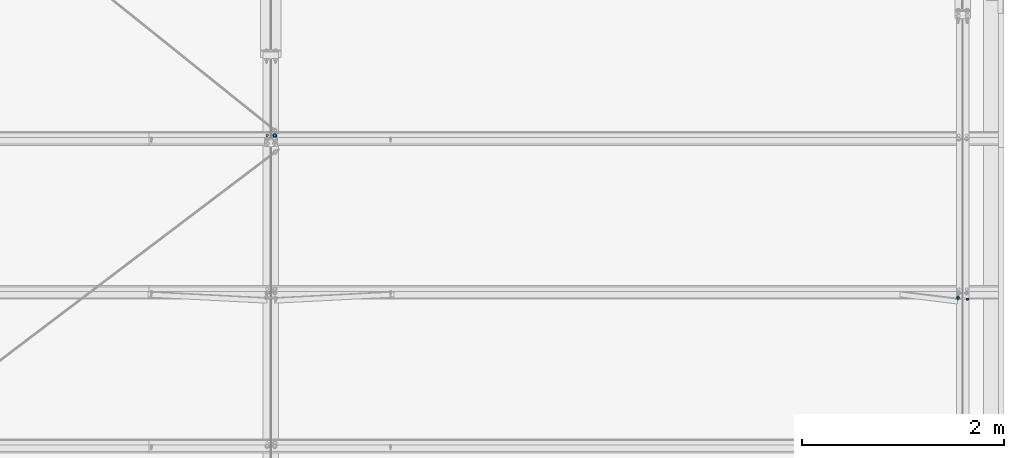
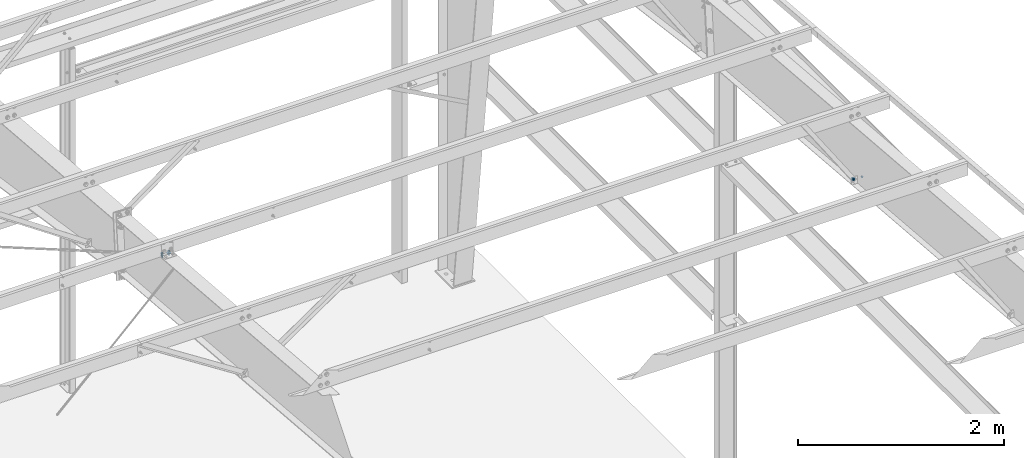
# One storey, part 176 of 185: 5 mechanical fasteners, 3 elements without a shape of their own.
"""IFC2X3 building model written with IfcOpenShell, lengths in millimetres."""

from ifc_helpers import new_model, si_unit, frame, origin_with_axes, origin_2d_with_axis, place, context, subcontext, project, spatial, polyline, circle, outline, extrude, source, transform, mapped, material, type_object, element, aggregate, save


model = new_model("IFC2X3")

# Units and contexts
model_context = context("Model", 3, precision=1e-05, world=origin_with_axes())
body_context = subcontext(model_context, "Body", "Model", "MODEL_VIEW")
ifc_project = project(units=[si_unit("LENGTHUNIT", "METRE", prefix="MILLI"), si_unit("AREAUNIT", "SQUARE_METRE"), si_unit("VOLUMEUNIT", "CUBIC_METRE"), si_unit("MASSUNIT", "GRAM", prefix="KILO"), si_unit("TIMEUNIT", "SECOND"), si_unit("PLANEANGLEUNIT", "RADIAN"), si_unit("SOLIDANGLEUNIT", "STERADIAN"), si_unit("THERMODYNAMICTEMPERATUREUNIT", "DEGREE_CELSIUS"), si_unit("LUMINOUSINTENSITYUNIT", "LUMEN")], contexts=[model_context])

# Site, building, storey
site_placement = place(None, origin_with_axes())
site = spatial("IfcSite", under=ifc_project, at=site_placement, Name="Undefined", CompositionType="ELEMENT")
building_placement = place(site_placement, origin_with_axes())
building = spatial("IfcBuilding", under=site, at=building_placement, Name="Undefined", CompositionType="ELEMENT")
storey_placement = place(building_placement, origin_with_axes())
storey = spatial("IfcBuildingStorey", under=building, at=storey_placement, Name="Undefined", CompositionType="ELEMENT", Elevation=0.0)

# Assembly, mechanical fastener
assembly_1_placement = place(storey_placement, origin_with_axes())
assembly_1 = element("IfcElementAssembly", 1, at=assembly_1_placement, inside=storey, Name="Steel Assembly", AssemblyPlace="NOTDEFINED", PredefinedType="RIGID_FRAME")
ifc_material_1 = material(Name="Undefined")
discrete_accessory_type = type_object("IfcDiscreteAccessoryType", Name="Bolt assembly")
shared_shape_1 = source(origin_with_axes(), body_context, "Body", "SweptSolid", [
    extrude(circle(Radius=7.14374971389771, at=origin_2d_with_axis()), frame((0.0, -1.59000001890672, 0.0), z_axis=(0.0, 1.0, 0.0), x_axis=(1.0, 0.0, 0.0)), (0.0, 0.0, 1.0), 1.7),
    extrude(outline(polyline([(10.9985221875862, 0.0), (5.4992610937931, 9.52499961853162), (-5.4992610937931, 9.52499961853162), (-10.9985221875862, 0.0), (-5.4992610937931, -9.52499961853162), (5.4992610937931, -9.52499961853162), (10.9985221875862, 0.0)])), frame((0.0, -15.0837496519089, 0.0), z_axis=(0.0, 1.0, 0.0), x_axis=(1.0, 0.0, 0.0)), (0.0, 0.0, 1.0), 9.5),
    extrude(circle(Radius=6.34999990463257, at=origin_2d_with_axis()), frame((0.0, -5.5587500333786, 0.0), z_axis=(0.0, 1.0, 0.0), x_axis=(1.0, 0.0, 0.0)), (0.0, 0.0, 1.0), 38.1),
    extrude(circle(Radius=13.4937496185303, at=origin_2d_with_axis()), frame((0.0, -5.5587500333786, 0.0), z_axis=(0.0, 1.0, 0.0), x_axis=(1.0, 0.0, 0.0)), (0.0, 0.0, 1.0), 4.0),
    extrude(circle(Radius=22.2250003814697, at=origin_2d_with_axis()), frame((0.0, 0.0, 0.0), z_axis=(0.0, 1.0, 0.0), x_axis=(1.0, 0.0, 0.0)), (0.0, 0.0, 1.0), 7.9),
    extrude(outline(polyline([(12.8316099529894, 0.0), (6.4158049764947, 11.1125001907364), (-6.4158049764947, 11.1125001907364), (-12.8316099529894, 0.0), (-6.4158049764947, -11.1125001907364), (6.4158049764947, -11.1125001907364), (12.8316099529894, 0.0)])), frame((0.0, 7.93750000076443, 0.0), z_axis=(0.0, 1.0, 0.0), x_axis=(1.0, 0.0, 0.0)), (0.0, 0.0, 1.0), 12.3),
])
mechanical_fastener_1_placement = place(assembly_1_placement, frame((44504.8883669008, 23828.040158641, 5914.75831666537), z_axis=(-0.832860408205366, -0.0459642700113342, -0.551571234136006), x_axis=(-0.553483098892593, 0.0691652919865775, 0.82998350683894)))
mechanical_fastener_1 = element("IfcMechanicalFastener", 2, at=mechanical_fastener_1_placement, type_object=discrete_accessory_type, material=ifc_material_1, Name="Bolt assembly", NominalDiameter=12.6999998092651, NominalLength=38.0999984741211, context=body_context, shape_type="MappedRepresentation", body=[
    mapped(shared_shape_1, transform((0.0, 0.0, 0.0))),
])
aggregate(assembly_1, [mechanical_fastener_1])

# Assembly, mechanical fasteners
assembly_2_placement = place(storey_placement, origin_with_axes())
assembly_2 = element("IfcElementAssembly", 3, at=assembly_2_placement, inside=storey, Name="Steel Assembly", AssemblyPlace="NOTDEFINED", PredefinedType="RIGID_FRAME")
ifc_material_2 = material(Name="7990")
shared_shape_2 = source(origin_with_axes(), body_context, "Body", "SweptSolid", [
    extrude(circle(Radius=7.14374971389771, at=origin_2d_with_axis()), frame((0.0, -3.41600000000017, 0.0), z_axis=(0.0, 1.0, 0.0), x_axis=(1.0, 0.0, 0.0)), (0.0, 0.0, 1.0), 3.5),
    extrude(circle(Radius=11.4299998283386, at=origin_2d_with_axis()), frame((0.0, 0.0, 0.0), z_axis=(0.0, 1.0, 0.0), x_axis=(1.0, 0.0, 0.0)), (0.0, 0.0, 1.0), 4.2),
    extrude(outline(polyline([(12.171698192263, 0.0), (6.08584909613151, 10.5409998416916), (-6.08584909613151, 10.5409998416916), (-12.171698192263, 0.0), (-6.08584909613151, -10.5409998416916), (6.08584909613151, -10.5409998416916), (12.171698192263, 0.0)])), frame((0.0, 4.1909999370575, 0.0), z_axis=(0.0, 1.0, 0.0), x_axis=(1.0, 0.0, 0.0)), (0.0, 0.0, 1.0), 8.4),
])
mechanical_fastener_2_placement = place(assembly_2_placement, frame((44597.75815, 23827.9709933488, 5913.92833315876), z_axis=(-0.921635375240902, -0.0322263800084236, -0.386716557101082), x_axis=(0.388056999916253, -0.0765376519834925, -0.918451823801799)))
mechanical_fastener_2 = element("IfcMechanicalFastener", 4, at=mechanical_fastener_2_placement, type_object=discrete_accessory_type, material=ifc_material_2, Name="Bolt assembly", NominalDiameter=12.6999998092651, NominalLength=38.0999984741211, context=body_context, shape_type="MappedRepresentation", body=[
    mapped(shared_shape_2, transform((0.0, 0.0, 0.0))),
])
shared_shape_3 = source(origin_with_axes(), body_context, "Body", "SweptSolid", [
    extrude(circle(Radius=7.14374971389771, at=origin_2d_with_axis()), frame((0.0, 0.0, 0.0), z_axis=(0.0, 1.0, 0.0), x_axis=(1.0, 0.0, 0.0)), (0.0, 0.0, 1.0), 3.5),
    extrude(circle(Radius=11.4299998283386, at=origin_2d_with_axis()), frame((0.0, 3.41600000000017, 0.0), z_axis=(0.0, 1.0, 0.0), x_axis=(1.0, 0.0, 0.0)), (0.0, 0.0, 1.0), 4.2),
    extrude(outline(polyline([(12.171698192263, 0.0), (6.08584909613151, 10.5409998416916), (-6.08584909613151, 10.5409998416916), (-12.171698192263, 0.0), (-6.08584909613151, -10.5409998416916), (6.08584909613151, -10.5409998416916), (12.171698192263, 0.0)])), frame((0.0, 7.60699993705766, 0.0), z_axis=(0.0, 1.0, 0.0), x_axis=(1.0, 0.0, 0.0)), (0.0, 0.0, 1.0), 8.4),
])
mechanical_fastener_3_placement = place(assembly_2_placement, frame((44505.44185, 23827.9709933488, 5913.92833315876), z_axis=(0.921635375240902, -0.0322263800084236, -0.386716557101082), x_axis=(-0.388056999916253, -0.0765376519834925, -0.918451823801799)))
mechanical_fastener_3 = element("IfcMechanicalFastener", 5, at=mechanical_fastener_3_placement, type_object=discrete_accessory_type, material=ifc_material_2, Name="Bolt assembly", NominalDiameter=12.6999998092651, NominalLength=38.0999984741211, context=body_context, shape_type="MappedRepresentation", body=[
    mapped(shared_shape_3, transform((0.0, 0.0, 0.0))),
])
aggregate(assembly_2, [mechanical_fastener_3, mechanical_fastener_2])

assembly_3_placement = place(storey_placement, origin_with_axes())
assembly_3 = element("IfcElementAssembly", 6, at=assembly_3_placement, inside=storey, Name="Steel Assembly", AssemblyPlace="NOTDEFINED", PredefinedType="RIGID_FRAME")
shared_shape_4 = source(origin_with_axes(), body_context, "Body", "SweptSolid", [
    extrude(circle(Radius=7.14374971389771, at=origin_2d_with_axis()), frame((0.0, -0.0238014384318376, 0.0), z_axis=(0.0, 1.0, 0.0), x_axis=(1.0, 0.0, 0.0)), (0.0, 0.0, 1.0), 8.0),
    extrude(circle(Radius=7.14374971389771, at=origin_2d_with_axis()), frame((0.0, -3.08000006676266, 0.0), z_axis=(0.0, 1.0, 0.0), x_axis=(1.0, 0.0, 0.0)), (0.0, 0.0, 1.0), 3.2),
    extrude(circle(Radius=7.14374971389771, at=origin_2d_with_axis()), frame((0.0, -3.08000006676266, 0.0), z_axis=(0.0, 1.0, 0.0), x_axis=(1.0, 0.0, 0.0)), (0.0, 0.0, 1.0), 3.2),
    extrude(outline(polyline([(12.8316099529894, 0.0), (6.4158049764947, 11.1125001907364), (-6.4158049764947, 11.1125001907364), (-12.8316099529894, 0.0), (-6.4158049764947, -11.1125001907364), (6.4158049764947, -11.1125001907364), (12.8316099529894, 0.0)])), frame((0.0, -15.08625183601, 0.0), z_axis=(0.0, 1.0, 0.0), x_axis=(1.0, 0.0, 0.0)), (0.0, 0.0, 1.0), 7.9),
    extrude(circle(Radius=6.34999990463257, at=origin_2d_with_axis()), frame((0.0, -7.14875006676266, 0.0), z_axis=(0.0, 1.0, 0.0), x_axis=(1.0, 0.0, 0.0)), (0.0, 0.0, 1.0), 50.8),
    extrude(circle(Radius=13.4937496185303, at=origin_2d_with_axis()), frame((0.0, -7.14875006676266, 0.0), z_axis=(0.0, 1.0, 0.0), x_axis=(1.0, 0.0, 0.0)), (0.0, 0.0, 1.0), 4.0),
    extrude(circle(Radius=22.2250003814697, at=origin_2d_with_axis()), frame((0.0, 7.95019856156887, 0.0), z_axis=(0.0, 1.0, 0.0), x_axis=(1.0, 0.0, 0.0)), (0.0, 0.0, 1.0), 7.9),
    extrude(outline(polyline([(12.8316099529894, 0.0), (6.4158049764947, 11.1125001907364), (-6.4158049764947, 11.1125001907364), (-12.8316099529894, 0.0), (-6.4158049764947, -11.1125001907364), (6.4158049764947, -11.1125001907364), (12.8316099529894, 0.0)])), frame((0.0, 15.8876985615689, 0.0), z_axis=(0.0, 1.0, 0.0), x_axis=(1.0, 0.0, 0.0)), (0.0, 0.0, 1.0), 12.3),
])
mechanical_fastener_4_placement = place(assembly_3_placement, frame((37757.1, 25439.2546863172, 6439.15777571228), z_axis=(-1.0, 0.0, 0.0), x_axis=(0.0, 0.996545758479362, -0.0830454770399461)))
mechanical_fastener_4 = element("IfcMechanicalFastener", 7, at=mechanical_fastener_4_placement, type_object=discrete_accessory_type, material=ifc_material_1, Name="Bolt assembly", NominalDiameter=12.6999998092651, NominalLength=50.7999992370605, context=body_context, shape_type="MappedRepresentation", body=[
    mapped(shared_shape_4, transform((0.0, 0.0, 0.0))),
])
shared_shape_5 = source(origin_with_axes(), body_context, "Body", "SweptSolid", [
    extrude(circle(Radius=7.14374971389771, at=origin_2d_with_axis()), frame((0.0, -0.0238014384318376, 0.0), z_axis=(0.0, 1.0, 0.0), x_axis=(1.0, 0.0, 0.0)), (0.0, 0.0, 1.0), 8.0),
    extrude(circle(Radius=7.14374971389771, at=origin_2d_with_axis()), frame((0.0, -3.08000006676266, 0.0), z_axis=(0.0, 1.0, 0.0), x_axis=(1.0, 0.0, 0.0)), (0.0, 0.0, 1.0), 3.2),
    extrude(circle(Radius=7.14374971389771, at=origin_2d_with_axis()), frame((0.0, -3.08000006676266, 0.0), z_axis=(0.0, 1.0, 0.0), x_axis=(1.0, 0.0, 0.0)), (0.0, 0.0, 1.0), 3.2),
    extrude(outline(polyline([(12.8316099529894, 0.0), (6.4158049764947, 11.1125001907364), (-6.4158049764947, 11.1125001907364), (-12.8316099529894, 0.0), (-6.4158049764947, -11.1125001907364), (6.4158049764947, -11.1125001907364), (12.8316099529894, 0.0)])), frame((0.0, -15.08625183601, 0.0), z_axis=(0.0, 1.0, 0.0), x_axis=(1.0, 0.0, 0.0)), (0.0, 0.0, 1.0), 7.9),
    extrude(circle(Radius=6.34999990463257, at=origin_2d_with_axis()), frame((0.0, -7.14875006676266, 0.0), z_axis=(0.0, 1.0, 0.0), x_axis=(1.0, 0.0, 0.0)), (0.0, 0.0, 1.0), 50.8),
    extrude(circle(Radius=13.4937496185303, at=origin_2d_with_axis()), frame((0.0, -7.14875006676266, 0.0), z_axis=(0.0, 1.0, 0.0), x_axis=(1.0, 0.0, 0.0)), (0.0, 0.0, 1.0), 4.0),
    extrude(outline(polyline([(12.8316099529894, 0.0), (6.4158049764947, 11.1125001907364), (-6.4158049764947, 11.1125001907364), (-12.8316099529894, 0.0), (-6.4158049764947, -11.1125001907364), (6.4158049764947, -11.1125001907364), (12.8316099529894, 0.0)])), frame((0.0, 7.95019856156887, 0.0), z_axis=(0.0, 1.0, 0.0), x_axis=(1.0, 0.0, 0.0)), (0.0, 0.0, 1.0), 12.3),
])
mechanical_fastener_5_placement = place(assembly_3_placement, frame((37680.9, 25439.2546863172, 6439.15777571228), z_axis=(-1.0, 0.0, 0.0), x_axis=(0.0, 0.996545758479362, -0.0830454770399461)))
mechanical_fastener_5 = element("IfcMechanicalFastener", 8, at=mechanical_fastener_5_placement, type_object=discrete_accessory_type, material=ifc_material_1, Name="Bolt assembly", NominalDiameter=12.6999998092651, NominalLength=50.7999992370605, context=body_context, shape_type="MappedRepresentation", body=[
    mapped(shared_shape_5, transform((0.0, 0.0, 0.0))),
])
aggregate(assembly_3, [mechanical_fastener_4, mechanical_fastener_5])

save(model, "model.ifc")
